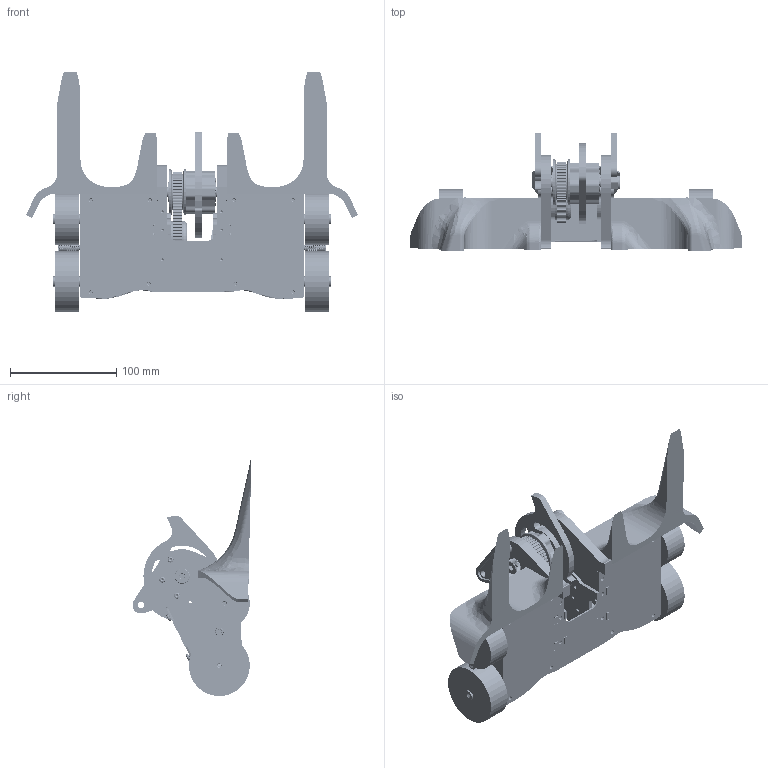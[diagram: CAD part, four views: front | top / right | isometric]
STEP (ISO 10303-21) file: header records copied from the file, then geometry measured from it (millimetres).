
FILE_DESCRIPTION(/* description */ (''),/* implementation_level */ '2;1');
FILE_NAME(/* name */ 'Digitizer Version 1.0.step',/* time_stamp */ '2026-05-31T09:43:14-05:00',/* author */ (''),/* organization */ (''),/* preprocessor_version */ 'ST-DEVELOPER v20.1',/* originating_system */ 'Autodesk Translation Framework v15.8.0.0',/* authorisation */ '');
FILE_SCHEMA (('AUTOMOTIVE_DESIGN { 1 0 10303 214 3 1 1 }'));
Products named in the file (34): Assembly; 91780A337_Lightweight Aluminum Female Threaded Hex Standoff; Drive Assembly; EMAX 2207; Knurled Coupling Nut 8mm OD 20mm Length M5-08 Tap; 93330A622_Female Threaded Round Standoff; 6391K175_Oil-Embedded 841 Bronze Sleeve Bearing; Rear Wheel; Front Wheel; Drive Assembly v1(Mirror); EMAX 2207 v1(Mirror); 93330A622_Female Threaded Round Standoff_1; 6391K175_Oil-Embedded 841 Bronze Sleeve Bearing_1; Rear Wheel v1(Mirror); Front Wheel v1(Mirror); Knurled Coupling Nut 8mm OD 20mm Length M5-08 Tap v2(Mirror); Weapon Assembly; TPU Ear; DISK; Weapon Pulley; 5905K132_Needle-Roller Bearing; 94528A114_Titanium Nylon-Insert Locknut; 91253A206_Black-Oxide Alloy Steel Hex Drive Flat Head Screw; 5906K601_Oil-Embedded Thrust Bronze Bearing; EMAX 2812; Weapon Upright; 91780A337_Lightweight Aluminum Female Threaded Hex Standoff_1; 97768A388_18-8 Stainless Steel Shoulder Screw with Black Oxide Finish; 97135A417_High-Strength Steel Nylon-Insert Locknut; 99512A658_Rounded Head Thread-Forming Screws; 92727A160_Torx Rounded Head Thread-Forming Screws; GNB 850; Lynx_Switch; TPU Fork Armor
Assembly tree (62 placements, depth 5):
  Assembly
    91780A337_Lightweight Aluminum Female Threaded Hex Standoff  x4
    Drive Assembly
      EMAX 2207
      Knurled Coupling Nut 8mm OD 20mm Length M5-08 Tap
      93330A622_Female Threaded Round Standoff  x2
      6391K175_Oil-Embedded 841 Bronze Sleeve Bearing  x2
      Rear Wheel
      Front Wheel
    Drive Assembly v1(Mirror)
      EMAX 2207 v1(Mirror)
      93330A622_Female Threaded Round Standoff_1  x2
      6391K175_Oil-Embedded 841 Bronze Sleeve Bearing_1  x2
      Rear Wheel v1(Mirror)
      Front Wheel v1(Mirror)
      Knurled Coupling Nut 8mm OD 20mm Length M5-08 Tap v2(Mirror)
    Weapon Assembly
      TPU Ear
      DISK
        Weapon Pulley
          5905K132_Needle-Roller Bearing  x2
          94528A114_Titanium Nylon-Insert Locknut  x5
          91253A206_Black-Oxide Alloy Steel Hex Drive Flat Head Screw  x5
      5906K601_Oil-Embedded Thrust Bronze Bearing  x2
      EMAX 2812
      Weapon Upright  x2
    91780A337_Lightweight Aluminum Female Threaded Hex Standoff_1  x4
    99512A658_Rounded Head Thread-Forming Screws  x6
    92727A160_Torx Rounded Head Thread-Forming Screws  x4
    97768A388_18-8 Stainless Steel Shoulder Screw with Black Oxide Finish
    97135A417_High-Strength Steel Nylon-Insert Locknut
    GNB 850
    Lynx_Switch
    TPU Fork Armor
Bounding box: 311.87 x 111.75 x 225.55 mm (x, y, z)
Volume: 924223.7 mm3; surface area: 455913.3 mm2
Topology: 139 solids, 139 shells, 10816 faces, 26017 edges, 15582 vertices
Faces by surface type: bspline 4225, cylinder 3790, plane 1984, cone 588, torus 229
Full cylindrical faces by diameter (mm): 1.191 x28, 1.783 x4, 1.924 x54, 2.271 x10, 2.438 x4, 2.474 x176, 2.5 x2, 2.769 x12, 3 x24, 3.073 x48, 3.134 x250, 3.277 x14, 3.371 x2, 3.404 x8, 3.452 x5, 3.505 x176, 3.551 x25, 3.658 x28, 3.81 x28, 3.989 x10, 4 x1, 4.166 x284, 4.234 x24, 4.496 x22, 4.901 x14, 5.099 x5, 5.12 x12, 5.168 x1, 5.563 x6, 6.35 x3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
Entity records: 349675 total; most frequent: CARTESIAN_POINT 184389, ORIENTED_EDGE 40902, DIRECTION 21343, EDGE_CURVE 20451, VERTEX_POINT 11992, B_SPLINE_CURVE_WITH_KNOTS 11376, EDGE_LOOP 9219, FACE_OUTER_BOUND 8751
